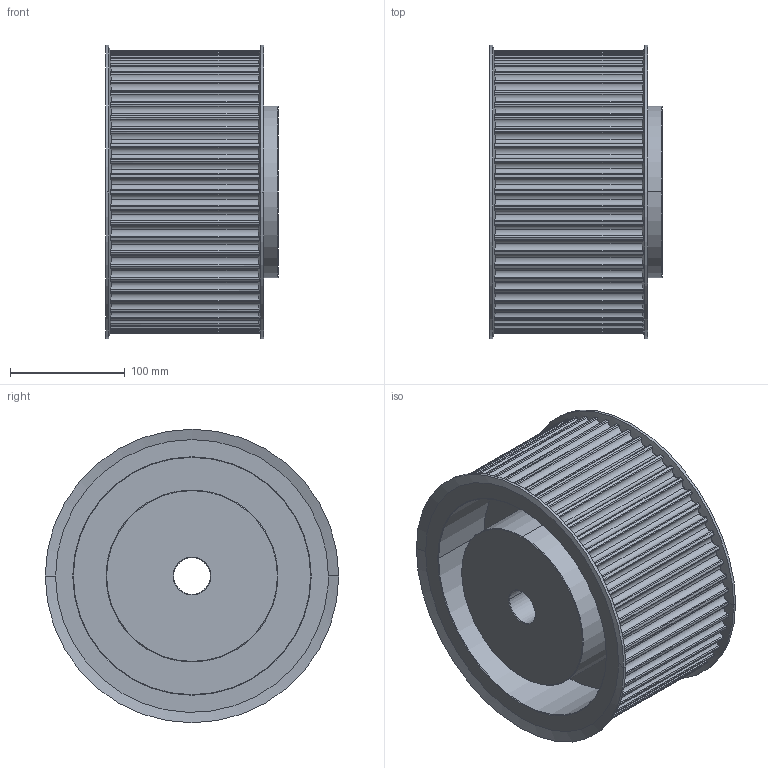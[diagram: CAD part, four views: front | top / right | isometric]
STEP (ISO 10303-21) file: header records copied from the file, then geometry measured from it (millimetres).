
FILE_DESCRIPTION(('STEP AP203'),'1');
FILE_NAME('56_-_14_m_115.stp','2021-05-14T12:14:09',('TraceParts'),('TraceParts S.A.'),'Spatial InterOp 3D',' ',' ');
FILE_SCHEMA(('CONFIG_CONTROL_DESIGN'));
Length unit declared in the file: millimetre
Products named in the file (1): 1
Bounding box: 150.41 x 256 x 256 mm (x, y, z)
Volume: 4462336 mm3; surface area: 397548.8 mm2
Topology: 1 solids, 1 shells, 432 faces, 1266 edges, 840 vertices
Faces by surface type: cylinder 294, plane 118, cone 20
Entity records: 18598 total; most frequent: CARTESIAN_POINT 7467, ORIENTED_EDGE 2532, DIRECTION 2188, EDGE_CURVE 1266, AXIS2_PLACEMENT_3D 937, VERTEX_POINT 840, CIRCLE 504, B_SPLINE_CURVE_WITH_KNOTS 448
